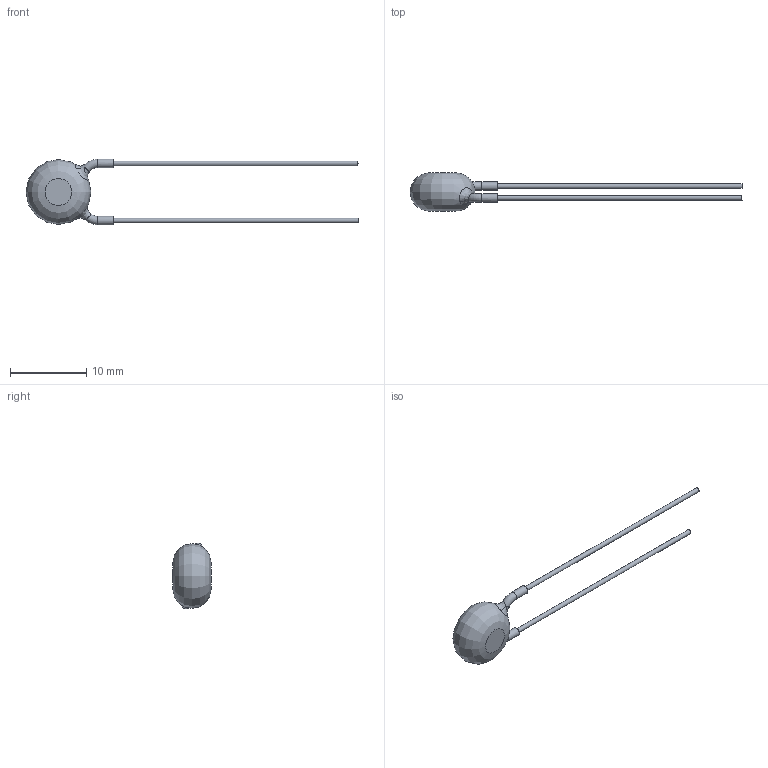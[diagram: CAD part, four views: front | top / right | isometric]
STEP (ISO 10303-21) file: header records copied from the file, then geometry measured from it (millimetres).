
FILE_DESCRIPTION((''),'2;1');
FILE_NAME('I:\Marketing\M6t1\3D-Models\Zchng-Werk-3\Upload for homepage\BCC\AY2\Y5U-7,5mm\AY2152K31Y5US63L7\AY2152K31Y5US63L7.stp','2015-09-09T08:36:10',(''),(''),'Autodesk Inventor 2013','Autodesk Inventor 2013','');
FILE_SCHEMA(('AUTOMOTIVE_DESIGN { 1 0 10303 214 1 1 1 1 }'));
Length unit declared in the file: centimetre
Products named in the file (1): AY2152K31Y5US63L7
Bounding box: 43.5 x 5 x 8.6 mm (x, y, z)
Volume: 248.9 mm3; surface area: 334.8 mm2
Topology: 1 solids, 1 shells, 19 faces, 37 edges, 24 vertices
Faces by surface type: cylinder 6, plane 6, bspline 5, torus 2
Full cylindrical faces by diameter (mm): 0.6 x2, 1.1 x2
Entity records: 787 total; most frequent: CARTESIAN_POINT 410, DIRECTION 62, ORIENTED_EDGE 52, AXIS2_PLACEMENT_3D 31, EDGE_LOOP 30, EDGE_CURVE 26, VERTEX_POINT 20, STYLED_ITEM 20
